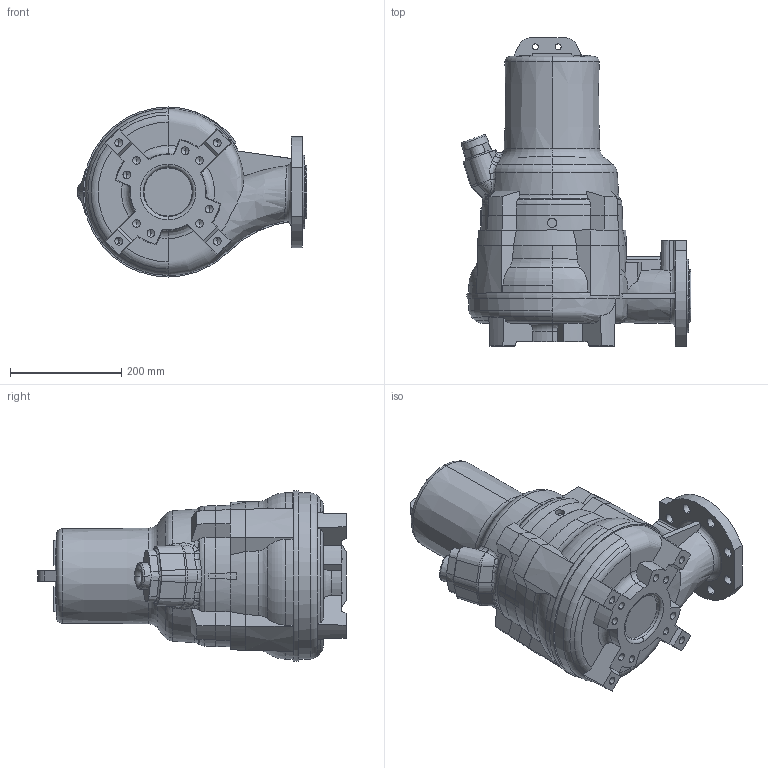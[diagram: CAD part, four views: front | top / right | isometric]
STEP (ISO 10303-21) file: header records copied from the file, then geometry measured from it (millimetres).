
FILE_DESCRIPTION (( 'STEP AP203' ), '1' );
FILE_NAME ('80FWC-V_1,6-2,2-3,1kW.STEP', '2025-03-21T10:21:10', ( '' ), ( '' ), 'SwSTEP 2.0', 'SolidWorks 2023', '' );
FILE_SCHEMA (( 'CONFIG_CONTROL_DESIGN' ));
Length unit declared in the file: millimetre
Products named in the file (1): 80FWC-V_1,6-2,2-3,1kW
Bounding box: 412.02 x 553 x 305.91 mm (x, y, z)
Volume: 23819453 mm3; surface area: 659363.7 mm2
Topology: 1 solids, 2 shells, 565 faces, 1470 edges, 935 vertices
Faces by surface type: plane 221, cone 131, bspline 85, cylinder 71, torus 49, sphere 8
Entity records: 25578 total; most frequent: CARTESIAN_POINT 12445, ORIENTED_EDGE 2916, DIRECTION 2494, EDGE_CURVE 1458, AXIS2_PLACEMENT_3D 1007, VERTEX_POINT 935, EDGE_LOOP 623, ADVANCED_FACE 565
